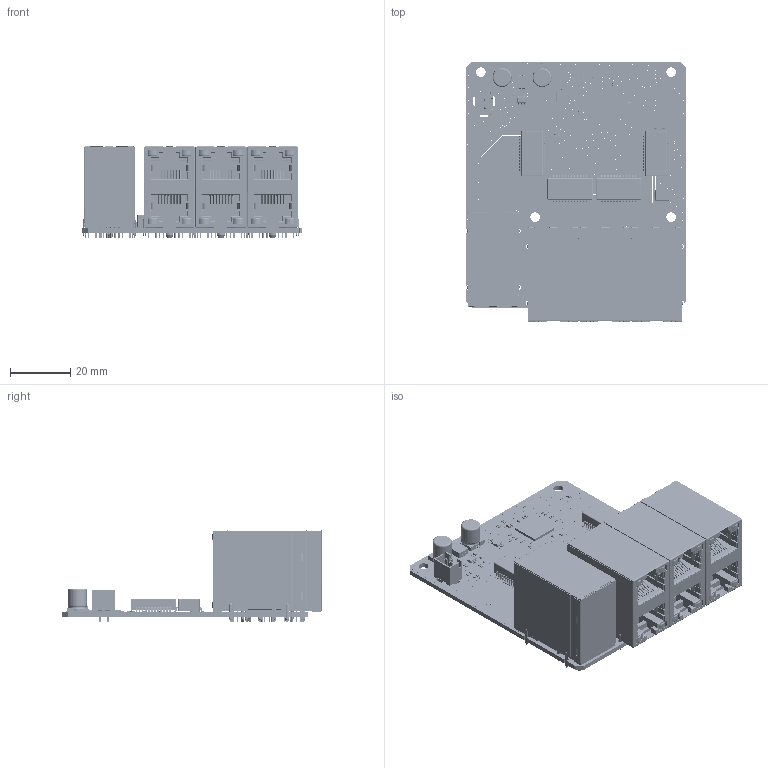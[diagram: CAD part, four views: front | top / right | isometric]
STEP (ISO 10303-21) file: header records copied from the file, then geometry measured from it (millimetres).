
FILE_DESCRIPTION(('Designed by EasyEDA Pro'),'2;1');
FILE_NAME('Open CASCADE Shape Model','2026-07-21T10:23:37',('Author'),( 'Open CASCADE'),'Open CASCADE STEP processor 7.8','Open CASCADE 7.8' ,'Unknown');
FILE_SCHEMA(('AUTOMOTIVE_DESIGN { 1 0 10303 214 1 1 1 1 }'));
Length unit declared in the file: millimetre
Products named in the file (868): EasyEDA PCB Model~Nr2c; Board~Nr2c; TopCopper~Nr2c; BottomCopper~Nr2c; TopSilkscreen~Nr2c; BottomSilkscreen~Nr2c; TopFpcStiffener~Nr2c; BottomFpcStiffener~Nr2c; C0402~C0402_L1.0-W0.5-H0.5~UNM7; C1~C0402~C0402_L1.0-W0.5-H0.5~NCRA; C10~C0402~C0402_L1.0-W0.5-H0.5~QAYL; C11~C0402~C0402_L1.0-W0.5-H0.5~DCNC; C12~C0402~C0402_L1.0-W0.5-H0.5~LltD; C13~C0402~C0402_L1.0-W0.5-H0.5~Bad2; C15~C0402~C0402_L1.0-W0.5-H0.5~MUY4; C16~C0402~C0402_L1.0-W0.5-H0.5~3uic; C17~C0402~C0402_L1.0-W0.5-H0.5~WsYZ; C18~C0402~C0402_L1.0-W0.5-H0.5~52Lc; C19~C0402~C0402_L1.0-W0.5-H0.5~xRAo; C2~C0402~C0402_L1.0-W0.5-H0.5~gQmL; C20~C0402~C0402_L1.0-W0.5-H0.5~wOLe; C21~C0402~C0402_L1.0-W0.5-H0.5~OkfA; C22~C0402~C0402_L1.0-W0.5-H0.5~0HJP; C24~C0402~C0402_L1.0-W0.5-H0.5~RyUz; C25~C0402~C0402_L1.0-W0.5-H0.5~TS95; C27~C0402~C0402_L1.0-W0.5-H0.5~RAWe; C28~C0402~C0402_L1.0-W0.5-H0.5~0Z7F; C29~C0402~C0402_L1.0-W0.5-H0.5~eJV6; C3~C0402~C0402_L1.0-W0.5-H0.5~lJ38; C30~C0402~C0402_L1.0-W0.5-H0.5~BL73; C4~C0402~C0402_L1.0-W0.5-H0.5~Wwy2; C5~C0402~C0402_L1.0-W0.5-H0.5~kQbP; C6~C0402~C0402_L1.0-W0.5-H0.5~PPlh; C7~C0402~C0402_L1.0-W0.5-H0.5~856u; C8~C0402~C0402_L1.0-W0.5-H0.5~gHNd; C9~C0402~C0402_L1.0-W0.5-H0.5~BJAZ; C-0603~C0603_L1.6-W0.8-H0.8~nhqG; C26~C-0603~C0603_L1.6-W0.8-H0.8~mS91; SMB~SMB_L4.6-W3.6-LS5.3-RD~j1e4; D3~SMB~SMB_L4.6-W3.6-LS5.3-RD~AKgx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
Assembly tree (915 placements, depth 3):
  EasyEDA PCB Model~Nr2c
    Board~Nr2c
    TopCopper~Nr2c
      TopCopper~Nr2c
      TopCopper~Nr2c
      TopCopper~Nr2c
      TopCopper~Nr2c
      TopCopper~Nr2c
      TopCopper~Nr2c
      TopCopper~Nr2c
      TopCopper~Nr2c
      TopCopper~Nr2c
      TopCopper~Nr2c
      TopCopper~Nr2c
      TopCopper~Nr2c
      TopCopper~Nr2c
      TopCopper~Nr2c
      TopCopper~Nr2c
      TopCopper~Nr2c
      TopCopper~Nr2c
      TopCopper~Nr2c
      TopCopper~Nr2c
      TopCopper~Nr2c
      TopCopper~Nr2c
      TopCopper~Nr2c
      TopCopper~Nr2c
      TopCopper~Nr2c
      TopCopper~Nr2c
      TopCopper~Nr2c
      TopCopper~Nr2c
      TopCopper~Nr2c
      TopCopper~Nr2c
      TopCopper~Nr2c
      TopCopper~Nr2c
      TopCopper~Nr2c
      TopCopper~Nr2c
      TopCopper~Nr2c
      TopCopper~Nr2c
      TopCopper~Nr2c
      TopCopper~Nr2c
      TopCopper~Nr2c
      TopCopper~Nr2c
      TopCopper~Nr2c
      TopCopper~Nr2c
      TopCopper~Nr2c
      TopCopper~Nr2c
      TopCopper~Nr2c
      TopCopper~Nr2c
      TopCopper~Nr2c
      TopCopper~Nr2c
      TopCopper~Nr2c
      TopCopper~Nr2c
      TopCopper~Nr2c
      TopCopper~Nr2c
      TopCopper~Nr2c
      TopCopper~Nr2c
      TopCopper~Nr2c
      TopCopper~Nr2c
      TopCopper~Nr2c
      TopCopper~Nr2c
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Bounding box: 72.97 x 86.09 x 30.62 mm (x, y, z)
Volume: 54320.9 mm3; surface area: 81790.3 mm2
Topology: 181 solids, 963 shells, 32952 faces, 105459 edges, 74637 vertices
Faces by surface type: plane 19790, bspline 6537, cylinder 5527, sphere 486, extrusion 320, torus 280, cone 12
Entity records: 562056 total; most frequent: CARTESIAN_POINT 124960, DIRECTION 69512, ORIENTED_EDGE 68039, EDGE_CURVE 42739, VERTEX_POINT 33998, VECTOR 26278, LINE 26198, AXIS2_PLACEMENT_3D 21617
